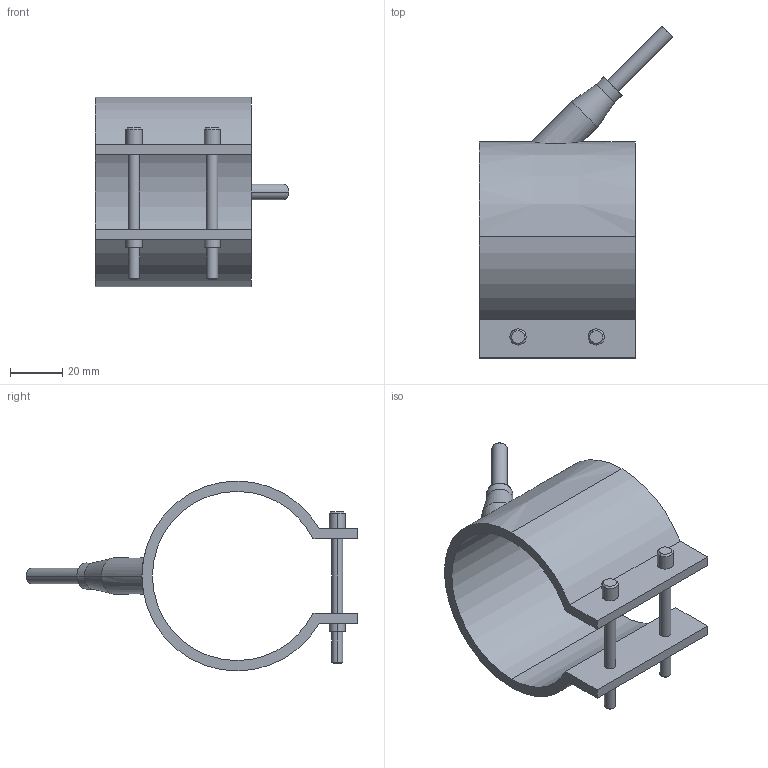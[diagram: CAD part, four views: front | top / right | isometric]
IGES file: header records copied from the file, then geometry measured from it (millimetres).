
Start section: START RECORD GO HERE.
Global section: file name: 29065060.igs; native system: DASSAULT SYSTEMES CATIA V5 R20 - www.3ds.com; preprocessor: CATIA Version 5 Release 20 ; author: Utente; organization: NB04-ASUS; date: 20210327.104558; units: millimetre
Bounding box: 74.55 x 127.55 x 73 mm (x, y, z)
Surface area: 31073.1 mm2 (no closed solid volume)
Topology: 0 solids, 0 shells, 54 faces, 252 edges, 252 vertices
Faces by surface type: revolution 38, plane 16
